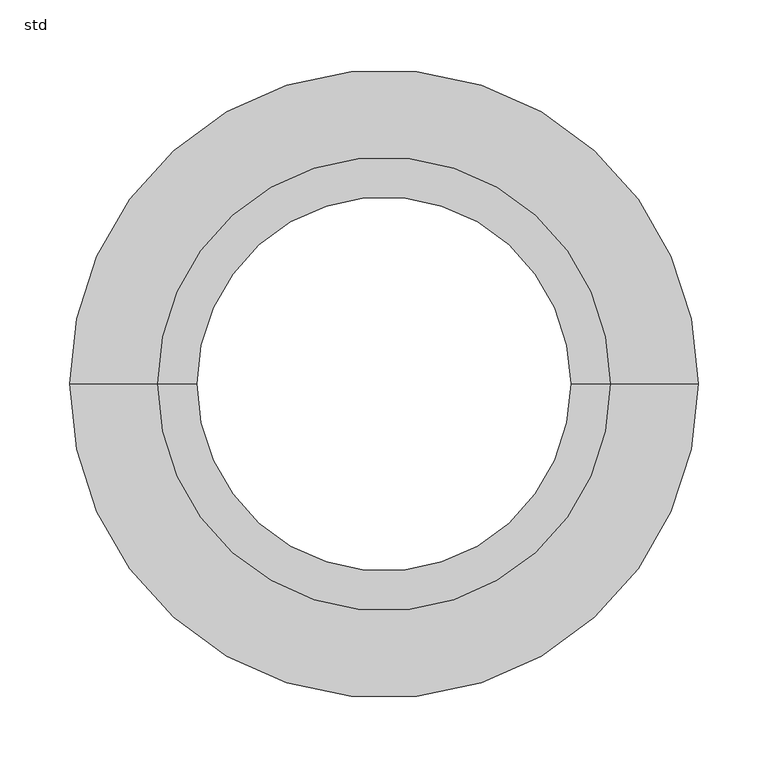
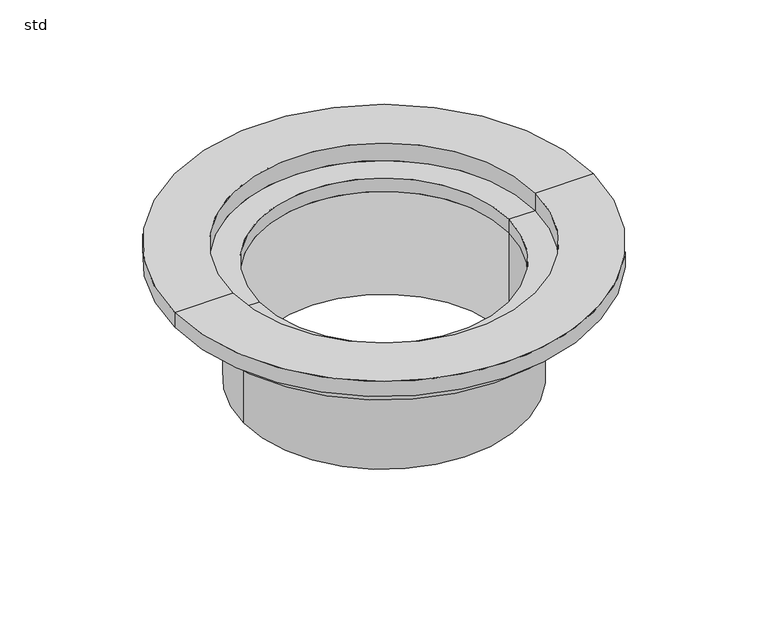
"""IFC4 building model written with IfcOpenShell, lengths in millimetres: pipe fitting geometry, Z_PIF_UN_Aquacell_NG_Telescopic_Frame_Wavin_(nested) : std."""

from ifc_helpers import new_model, si_unit, point, frame, origin, origin_with_axes, origin_2d, place, context, project, spatial, polyline, circle_curve, trimmed, segment, composite_curve, outline, extrude, source, transform, mapped, element, save
from ifc_brep_helpers import plane_surface, cylinder_surface, revolved_surface, advanced_brep


def std_96d167fa(model_context):
    return source(origin(), model_context, "Body", "SolidModel", [
        advanced_brep(
        [(-205.0, 0.0, -17.0), (205.0, 0.0, -17.0), (205.0, 0.0, -35.0), (-205.0, 0.0, -35.0), (-225.0, 0.0, -17.0), (225.0, 0.0, -17.0), (-225.0, 0.0, 0.0), (225.0, 0.0, 0.0), (-162.5, 0.0, 0.0), (162.5, 0.0, 0.0), (-162.5, 0.0, -20.0), (162.5, 0.0, -20.0), (-134.0, 0.0, -20.0), (134.0, 0.0, -20.0), (-134.0, 0.0, -35.0), (134.0, 0.0, -35.0)],
        [
            (0, 1, circle_curve(frame((0.0, 0.0, -17.0), z_axis=(0.0, 0.0, -1.0), x_axis=(1.0, 0.0, 0.0)), 205.0)),
            (1, 2),
            (2, 3, circle_curve(frame((0.0, 0.0, -35.0), z_axis=(0.0, 0.0, 1.0), x_axis=(1.0, 0.0, 0.0)), 205.0)),
            (3, 0),
            (1, 0, circle_curve(frame((0.0, 0.0, -17.0), z_axis=(0.0, 0.0, -1.0), x_axis=(1.0, 0.0, 0.0)), 205.0)),
            (3, 2, circle_curve(frame((0.0, 0.0, -35.0), z_axis=(0.0, 0.0, 1.0), x_axis=(1.0, 0.0, 0.0)), 205.0)),
            (4, 5, circle_curve(frame((0.0, 0.0, -17.0), z_axis=(0.0, 0.0, -1.0), x_axis=(1.0, 0.0, 0.0)), 225.0)),
            (5, 1),
            (0, 4),
            (5, 4, circle_curve(frame((0.0, 0.0, -17.0), z_axis=(0.0, 0.0, -1.0), x_axis=(1.0, 0.0, 0.0)), 225.0)),
            (6, 7, circle_curve(frame((0.0, 0.0, 0.0), z_axis=(0.0, 0.0, -1.0), x_axis=(1.0, 0.0, 0.0)), 225.0)),
            (7, 5),
            (4, 6),
            (7, 6, circle_curve(frame((0.0, 0.0, 0.0), z_axis=(0.0, 0.0, -1.0), x_axis=(1.0, 0.0, 0.0)), 225.0)),
            (8, 9, circle_curve(frame((0.0, 0.0, 0.0), z_axis=(0.0, 0.0, -1.0), x_axis=(1.0, 0.0, 0.0)), 162.5)),
            (9, 7),
            (6, 8),
            (9, 8, circle_curve(frame((0.0, 0.0, 0.0), z_axis=(0.0, 0.0, -1.0), x_axis=(1.0, 0.0, 0.0)), 162.5)),
            (10, 11, circle_curve(frame((0.0, 0.0, -20.0), z_axis=(0.0, 0.0, -1.0), x_axis=(1.0, 0.0, 0.0)), 162.5)),
            (11, 9),
            (8, 10),
            (11, 10, circle_curve(frame((0.0, 0.0, -20.0), z_axis=(0.0, 0.0, -1.0), x_axis=(1.0, 0.0, 0.0)), 162.5)),
            (12, 13, circle_curve(frame((0.0, 0.0, -20.0), z_axis=(0.0, 0.0, -1.0), x_axis=(1.0, 0.0, 0.0)), 134.0)),
            (13, 11),
            (10, 12),
            (13, 12, circle_curve(frame((0.0, 0.0, -20.0), z_axis=(0.0, 0.0, -1.0), x_axis=(1.0, 0.0, 0.0)), 134.0)),
            (14, 15, circle_curve(frame((0.0, 0.0, -35.0), z_axis=(0.0, 0.0, -1.0), x_axis=(1.0, 0.0, 0.0)), 134.0)),
            (15, 13),
            (12, 14),
            (15, 14, circle_curve(frame((0.0, 0.0, -35.0), z_axis=(0.0, 0.0, -1.0), x_axis=(1.0, 0.0, 0.0)), 134.0)),
            (2, 15),
            (14, 3),
        ],
        [
            cylinder_surface(frame((0.0, 0.0, -366.0), z_axis=(0.0, 0.0, 1.0), x_axis=(1.0, 0.0, 0.0)), 205.0),
            plane_surface(frame((0.0, 0.0, -17.0), z_axis=(0.0, 0.0, -1.0), x_axis=(1.0, 0.0, 0.0))),
            cylinder_surface(frame((0.0, 0.0, -366.0), z_axis=(0.0, 0.0, 1.0), x_axis=(1.0, 0.0, 0.0)), 225.0),
            plane_surface(origin_with_axes()),
            revolved_surface(polyline([(162.5, 0.0, 0.0), (162.5, 0.0, -20.0)]), (0.0, 0.0, -366.0), (0.0, 0.0, 1.0)),
            plane_surface(frame((0.0, 0.0, -20.0), z_axis=(0.0, 0.0, 1.0), x_axis=(1.0, 0.0, 0.0))),
            revolved_surface(polyline([(134.0, 0.0, -20.0), (134.0, 0.0, -35.0)]), (0.0, 0.0, -366.0), (0.0, 0.0, 1.0)),
            plane_surface(frame((0.0, 0.0, -35.0), z_axis=(0.0, 0.0, -1.0), x_axis=(1.0, 0.0, 0.0))),
        ],
        [
            (0, [[1, 2, 3, 4]]),
            (0, [[5, -4, 6, -2]]),
            (1, [[7, 8, -1, 9]]),
            (1, [[10, -9, -5, -8]]),
            (2, [[11, 12, -7, 13]]),
            (2, [[14, -13, -10, -12]]),
            (3, [[15, 16, -11, 17]]),
            (3, [[18, -17, -14, -16]]),
            (4, [[19, 20, -15, 21]]),
            (4, [[22, -21, -18, -20]]),
            (5, [[23, 24, -19, 25]]),
            (5, [[26, -25, -22, -24]]),
            (6, [[27, 28, -23, 29]]),
            (6, [[30, -29, -26, -28]]),
            (7, [[-3, 31, -27, 32]]),
            (7, [[-6, -32, -30, -31]]),
        ],
    ),
        extrude(outline(composite_curve([segment(trimmed(circle_curve(origin_2d(), 150.5), [point((-150.5, 0.0))], [point((150.5, 0.0))], False, "CARTESIAN"), True, "CONTINUOUS"), segment(trimmed(circle_curve(origin_2d(), 150.5), [point((150.5, 0.0))], [point((-150.5, 0.0))], False, "CARTESIAN"), True, "CONTINUOUS")], self_intersect=False), holes=[composite_curve([segment(trimmed(circle_curve(origin_2d(), 134.0), [point((-134.0, 0.0))], [point((134.0, 0.0))], True, "CARTESIAN"), True, "CONTINUOUS"), segment(trimmed(circle_curve(origin_2d(), 134.0), [point((134.0, 0.0))], [point((-134.0, 0.0))], True, "CARTESIAN"), True, "CONTINUOUS")], self_intersect=False)]), frame((0.0, 0.0, -152.0), z_axis=(0.0, 0.0, 1.0), x_axis=(1.0, 0.0, 0.0)), (0.0, 0.0, 1.0), 117.0),
    ])


if __name__ == "__main__":
    model = new_model("IFC4")
    model_context = context("Model", 3, world=origin())
    ifc_project = project(units=[si_unit("LENGTHUNIT", "METRE", prefix="MILLI")], contexts=[model_context])
    site = spatial("IfcSite", under=ifc_project)
    building = spatial("IfcBuilding", under=site)
    placement = place(None, origin())
    std_shape = std_96d167fa(model_context)
    element("IfcPipeFitting", 1, ObjectType="Z_PIF_UN_Aquacell_NG_Telescopic_Frame_Wavin_(nested) : std", at=placement, inside=building, context=model_context, shape_type="MappedRepresentation", body=[
        mapped(std_shape, transform((0.0, 0.0, 0.0), x_axis=(1.0, 0.0, 0.0), y_axis=(0.0, 1.0, 0.0), z_axis=(0.0, 0.0, 1.0))),
    ])
    save(model, "model.ifc")
